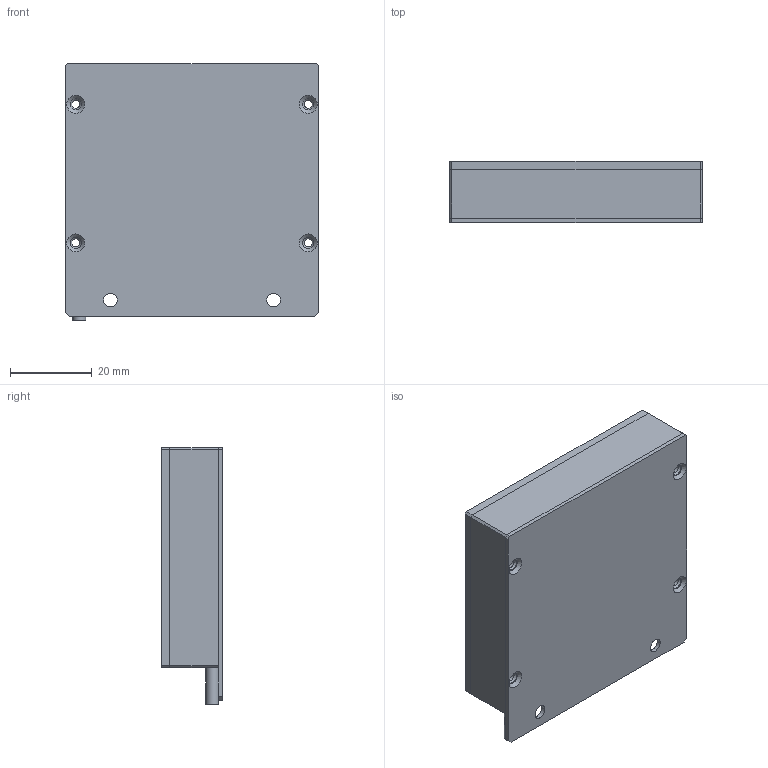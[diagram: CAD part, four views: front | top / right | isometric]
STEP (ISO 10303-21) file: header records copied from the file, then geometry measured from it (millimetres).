
FILE_DESCRIPTION(/* description */ (''),/* implementation_level */ '2;1');
FILE_NAME(/* name */ 'C:\#Vault-WorkDir\Konstruktions-Dokumente\Projekte\Zubehör allgemein\Falcon Beleuchtungen\153-01282_LF 51 xD-24-KFL5.stp',/* time_stamp */ '2018-07-25T10:32:41+02:00',/* author */ ('SensoPart'),/* organization */ ('SensoPart'),/* preprocessor_version */ 'ST-DEVELOPER v17',/* originating_system */ 'Autodesk Inventor 2018',/* authorisation */ '');
FILE_SCHEMA (('AUTOMOTIVE_DESIGN { 1 0 10303 214 3 1 1 }'));
Length unit declared in the file: millimetre
Products named in the file (1): GH-ENG-0026188
Bounding box: 62 x 15 x 63 mm (x, y, z)
Volume: 19986.9 mm3; surface area: 19562.3 mm2
Topology: 2 solids, 2 shells, 92 faces, 262 edges, 182 vertices
Faces by surface type: plane 53, cylinder 23, cone 16
Full cylindrical faces by diameter (mm): 2 x4, 2.3 x4, 2.8 x4, 3.1 x1, 3.4 x2
Entity records: 3290 total; most frequent: DIRECTION 563, CARTESIAN_POINT 549, ORIENTED_EDGE 536, EDGE_CURVE 268, AXIS2_PLACEMENT_3D 202, VERTEX_POINT 188, LINE 159, VECTOR 159
